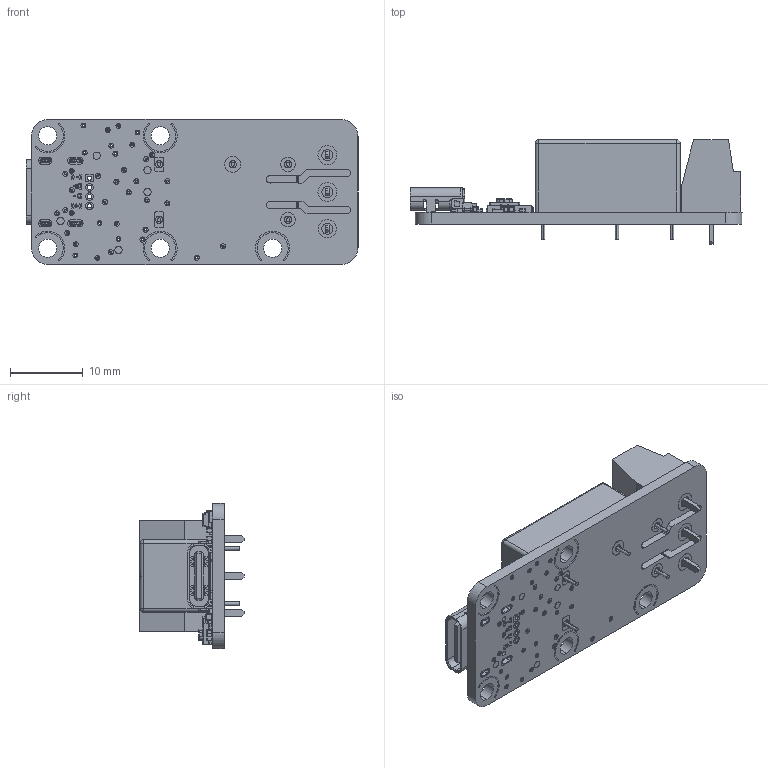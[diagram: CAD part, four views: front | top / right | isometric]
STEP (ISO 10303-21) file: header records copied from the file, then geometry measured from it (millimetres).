
FILE_DESCRIPTION (( 'STEP AP214' ), '1' );
FILE_NAME ('RLAYHI2C.STEP', '2025-05-30T15:15:25', ( '' ), ( '' ), 'SwSTEP 2.0', 'SolidWorks 2008', '' );
FILE_SCHEMA (( 'AUTOMOTIVE_DESIGN' ));
Length unit declared in the file: millimetre
Products named in the file (24): Relay1; C18; C19; R2; R4; R5; R12; P2; R1; RLAYHI2C; REG1; USB1; C16; T1; U1; led1outB; R10; C6; SW1; PVSS; YLED; C2; iSENSE; PCB
Assembly tree (27 placements, depth 2):
  RLAYHI2C
    R4
    C6  x4
    C18
    P2
    USB1
    R1
    R2
    SW1
    led1outB  x2
    Relay1
    R12
    PCB
    C2
    R10  x2
    C19
    R5
    U1
    iSENSE
    T1
    C16
    YLED
    REG1
  PVSS
Bounding box: 45.78 x 14.41 x 20 mm (x, y, z)
Volume: 4496.8 mm3; surface area: 4886.5 mm2
Topology: 32 solids, 32 shells, 5101 faces, 13496 edges, 8799 vertices
Faces by surface type: plane 3265, cylinder 1233, bspline 507, sphere 68, torus 16, cone 12
Entity records: 221462 total; most frequent: CARTESIAN_POINT 55404, ORIENTED_EDGE 25520, DIRECTION 22872, EDGE_CURVE 12760, VECTOR 9342, LINE 9342, VERTEX_POINT 8397, AXIS2_PLACEMENT_3D 6765
